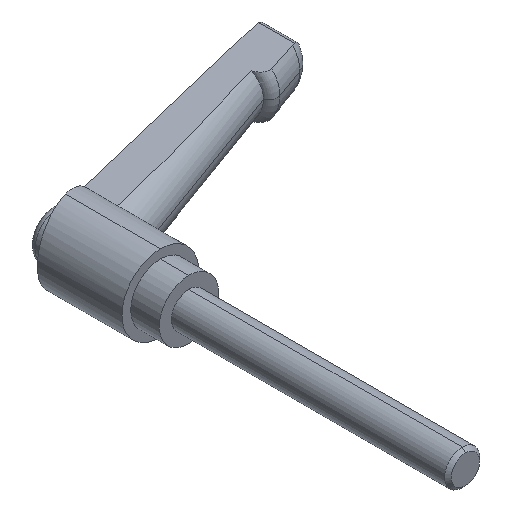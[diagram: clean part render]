
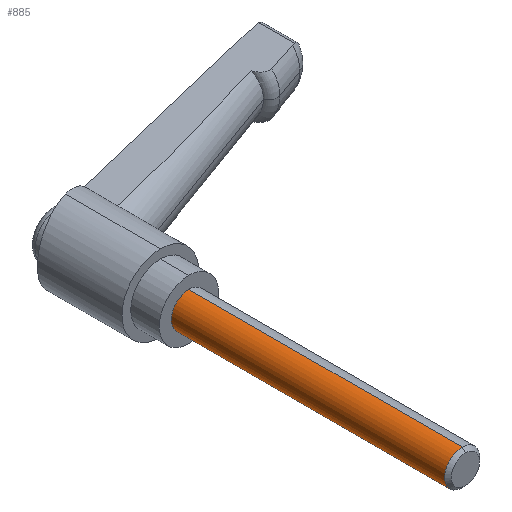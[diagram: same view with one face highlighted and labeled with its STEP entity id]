
A CAD part, isometric view. The second image highlights one B-rep face of the part: STEP entity #885.
In plain terms, the highlighted cylindrical face has radius 4 mm (diameter 8 mm), a partial arc.
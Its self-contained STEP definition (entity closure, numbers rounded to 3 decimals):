
#160 = EDGE_CURVE ( 'NONE', #2287, #1423, #586, .T. ) ;
#182 = DIRECTION ( 'NONE',  ( 0., 0., -1. ) ) ;
#224 = DIRECTION ( 'NONE',  ( 0., -1., 0. ) ) ;
#276 = ORIENTED_EDGE ( 'NONE', *, *, #632, .F. ) ;
#373 = DIRECTION ( 'NONE',  ( 0., 0., -1. ) ) ;
#398 = DIRECTION ( 'NONE',  ( 0., -1., 0. ) ) ;
#419 = VERTEX_POINT ( 'NONE', #1046 ) ;
#423 = CYLINDRICAL_SURFACE ( 'NONE', #1386, 4. ) ;
#490 = DIRECTION ( 'NONE',  ( 0., 0., -1. ) ) ;
#550 = DIRECTION ( 'NONE',  ( 0., -1., 0. ) ) ;
#586 = CIRCLE ( 'NONE', #982, 4. ) ;
#592 = CARTESIAN_POINT ( 'NONE',  ( 0., -63., 4. ) ) ;
#632 = EDGE_CURVE ( 'NONE', #419, #2113, #1612, .T. ) ;
#693 = EDGE_LOOP ( 'NONE', ( #1154, #2068, #924, #276 ) ) ;
#752 = CARTESIAN_POINT ( 'NONE',  ( 0., -63., -4. ) ) ;
#829 = CARTESIAN_POINT ( 'NONE',  ( 0., 0., 0. ) ) ;
#842 = EDGE_CURVE ( 'NONE', #1423, #2113, #1008, .T. ) ;
#885 = ADVANCED_FACE ( 'NONE', ( #2015 ), #423, .T. ) ;
#886 = CARTESIAN_POINT ( 'NONE',  ( 0., 0., -4. ) ) ;
#887 = CARTESIAN_POINT ( 'NONE',  ( 0., 0., 4. ) ) ;
#924 = ORIENTED_EDGE ( 'NONE', *, *, #842, .T. ) ;
#982 = AXIS2_PLACEMENT_3D ( 'NONE', #829, #2078, #490 ) ;
#1008 = LINE ( 'NONE', #752, #1571 ) ;
#1046 = CARTESIAN_POINT ( 'NONE',  ( 0., -62.233, 4. ) ) ;
#1154 = ORIENTED_EDGE ( 'NONE', *, *, #1515, .F. ) ;
#1386 = AXIS2_PLACEMENT_3D ( 'NONE', #1845, #550, #373 ) ;
#1423 = VERTEX_POINT ( 'NONE', #886 ) ;
#1442 = CARTESIAN_POINT ( 'NONE',  ( 0., -62.233, 0. ) ) ;
#1515 = EDGE_CURVE ( 'NONE', #2287, #419, #2025, .T. ) ;
#1571 = VECTOR ( 'NONE', #224, 1000. ) ;
#1612 = CIRCLE ( 'NONE', #1686, 4. ) ;
#1686 = AXIS2_PLACEMENT_3D ( 'NONE', #1442, #2103, #182 ) ;
#1834 = CARTESIAN_POINT ( 'NONE',  ( 0., -62.233, -4. ) ) ;
#1845 = CARTESIAN_POINT ( 'NONE',  ( 0., -63., 0. ) ) ;
#1968 = VECTOR ( 'NONE', #398, 1000. ) ;
#2015 = FACE_OUTER_BOUND ( 'NONE', #693, .T. ) ;
#2025 = LINE ( 'NONE', #592, #1968 ) ;
#2068 = ORIENTED_EDGE ( 'NONE', *, *, #160, .T. ) ;
#2078 = DIRECTION ( 'NONE',  ( 0., -1., 0. ) ) ;
#2103 = DIRECTION ( 'NONE',  ( 0., -1., 0. ) ) ;
#2113 = VERTEX_POINT ( 'NONE', #1834 ) ;
#2287 = VERTEX_POINT ( 'NONE', #887 ) ;
